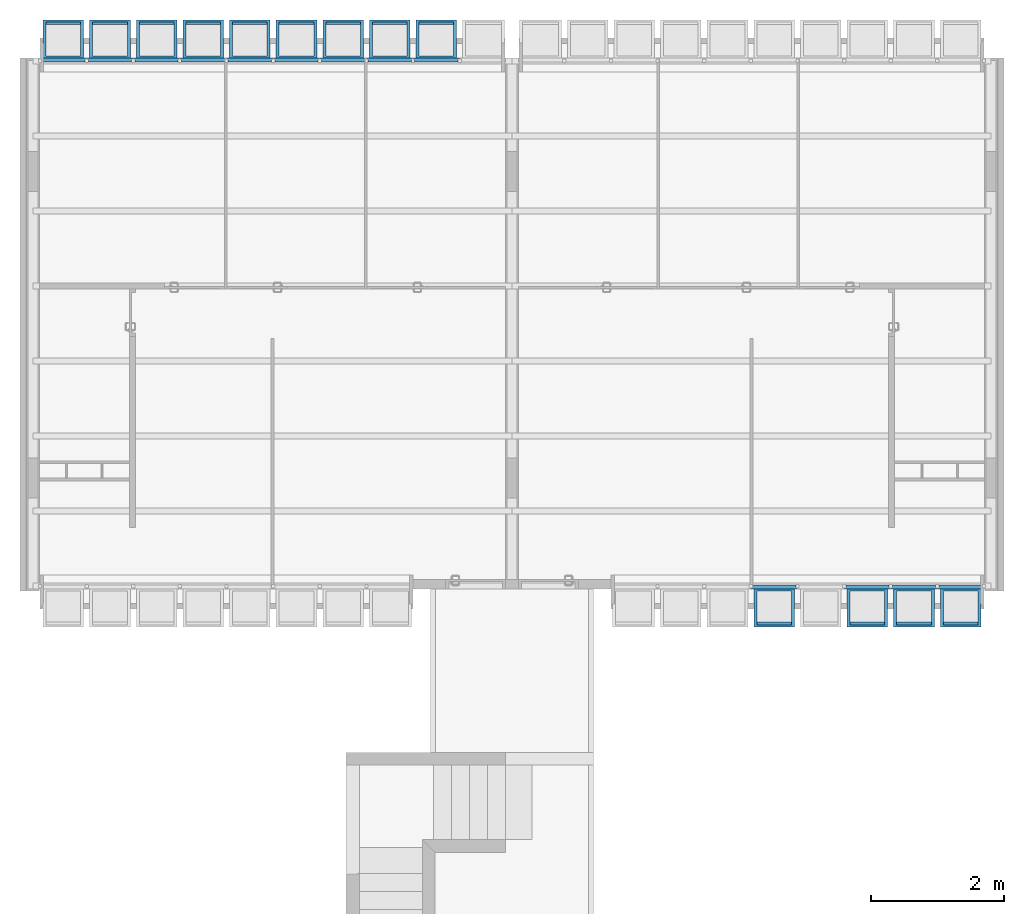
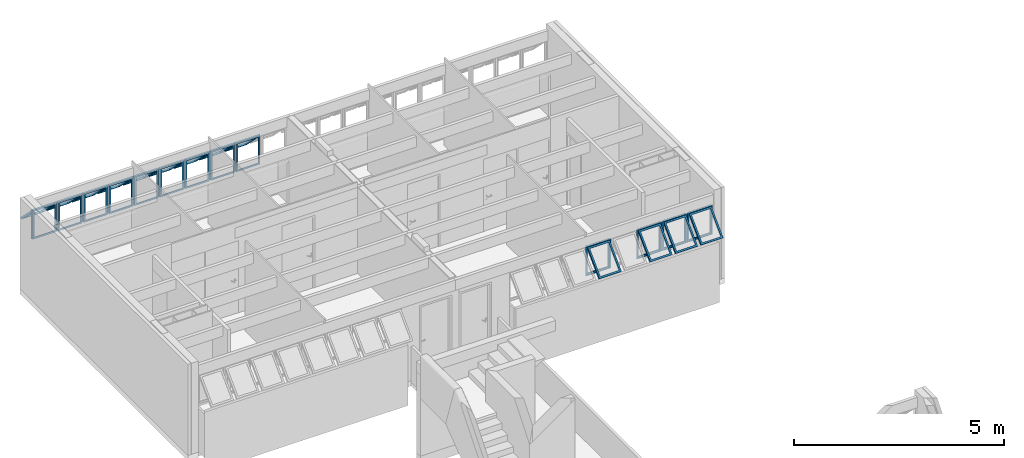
# One storey, part 32 of 37: 13 building element parts, 15 elements without a shape of their own.
"""IFC2X3 building model written with IfcOpenShell, lengths in millimetres."""

import ifcopenshell
import ifcopenshell.guid

model = None  # the IFC model being written
_history = None  # IfcOwnerHistory: only IFC2X3 demands one
_inside = {}  # id of a spatial element -> (the spatial element, [elements in it])
_under = {}  # id of a project, library or spatial element -> (it, [spatial elements below it])
_declared = {}  # id of a project -> (the project, [libraries it declares])
_typed = {}  # id of a type object -> (the type object, [elements of that type])
_made_of = {}  # id of a material, layer set ... -> (it, [elements and type objects made of it])


def new_model(schema):
    """Start an empty IFC model of exactly this schema.

    Asked for "IFC4X3", IfcOpenShell would pick the latest addendum, in which some entities
    have other attributes; the version numbers below select the first issue.
    IFC2X3 requires an IfcOwnerHistory on every rooted entity: one is made here for all.
    """
    global model, _history
    if schema == "IFC4X3":
        model = ifcopenshell.file(schema_version=(4, 3, 0, 0))
    else:
        model = ifcopenshell.file(schema=schema)
    _inside.clear()
    _under.clear()
    _declared.clear()
    _typed.clear()
    _made_of.clear()
    _history = None
    if model.schema == "IFC2X3":
        org = make("IfcOrganization", Name="unknown")
        user = make(
            "IfcPersonAndOrganization",
            ThePerson=make("IfcPerson", FamilyName="unknown"),
            TheOrganization=org,
        )
        app = make(
            "IfcApplication",
            ApplicationDeveloper=org,
            Version="unknown",
            ApplicationFullName="unknown",
            ApplicationIdentifier="unknown",
        )
        _history = make(
            "IfcOwnerHistory",
            OwningUser=user,
            OwningApplication=app,
            ChangeAction="ADDED",
            CreationDate=0,
        )
    return model


def make(cls, **values):
    """One entity of the class cls with the attributes given. An attribute that is None is left unset."""
    return model.create_entity(
        cls, **{name: value for name, value in values.items() if value is not None}
    )


def entity(cls, *values):
    """Any entity or typed value of the class cls, its attributes in the order of the schema. None: left unset."""
    e = model.create_entity(cls)
    for i, value in enumerate(values):
        if value is not None:
            e[i] = value
    return e


def rooted(cls, **values):
    """An entity with a GlobalId (a new one), such as an element, a storey or a relation."""
    return make(cls, GlobalId=ifcopenshell.guid.new(), OwnerHistory=_history, **values)


def si_unit(unit_type, name, prefix=None):
    """IfcSIUnit, for example si_unit("LENGTHUNIT", "METRE", prefix="MILLI")."""
    return make("IfcSIUnit", UnitType=unit_type, Prefix=prefix, Name=name)


def converted_unit(unit_type, name, factor, base, dimensions=None, offset=None):
    """IfcConversionBasedUnit, such as the inch: factor (a typed value) times the base unit."""
    return make(
        "IfcConversionBasedUnit"
        if offset is None
        else "IfcConversionBasedUnitWithOffset",
        ConversionOffset=offset,
        Dimensions=None
        if dimensions is None
        else entity("IfcDimensionalExponents", *dimensions),
        UnitType=unit_type,
        Name=name,
        ConversionFactor=make(
            "IfcMeasureWithUnit", ValueComponent=factor, UnitComponent=base
        ),
    )


def derived_unit(unit_type, elements):
    """IfcDerivedUnit: a product of units, each with its exponent."""
    return make(
        "IfcDerivedUnit",
        Elements=[
            make("IfcDerivedUnitElement", Unit=unit, Exponent=power)
            for unit, power in elements
        ],
        UnitType=unit_type,
    )


def money_unit(currency):
    """IfcMonetaryUnit."""
    return make("IfcMonetaryUnit", Currency=currency)


def assignment(units):
    """IfcUnitAssignment: the units of a project."""
    return None if units is None else make("IfcUnitAssignment", Units=units)


def point(xyz):
    """IfcCartesianPoint."""
    return None if xyz is None else make("IfcCartesianPoint", Coordinates=xyz)


def direction(xyz):
    """IfcDirection."""
    return None if xyz is None else make("IfcDirection", DirectionRatios=xyz)


def frame(location, z_axis=None, x_axis=None):
    """IfcAxis2Placement3D, a coordinate frame: its origin and axes. An axis left out is left unset."""
    return make(
        "IfcAxis2Placement3D",
        Location=point(location),
        Axis=direction(z_axis),
        RefDirection=direction(x_axis),
    )


def origin_with_axes():
    """The frame at (0, 0, 0) with the z axis (0, 0, 1) and the x axis (1, 0, 0) written out."""
    return frame((0.0, 0.0, 0.0), z_axis=(0.0, 0.0, 1.0), x_axis=(1.0, 0.0, 0.0))


def place(relative_to, where):
    """IfcLocalPlacement: puts the frame where relative to a parent placement (None: the world)."""
    return make(
        "IfcLocalPlacement", PlacementRelTo=relative_to, RelativePlacement=where
    )


def context(
    kind, dimensions, precision=None, world=None, true_north=None, identifier=None
):
    """IfcGeometricRepresentationContext, for example the 3D "Model" context."""
    return make(
        "IfcGeometricRepresentationContext",
        ContextIdentifier=identifier,
        ContextType=kind,
        CoordinateSpaceDimension=dimensions,
        Precision=precision,
        WorldCoordinateSystem=world,
        TrueNorth=true_north,
    )


def subcontext(parent, identifier, kind, view, scale=None):
    """IfcGeometricRepresentationSubContext, for example "Body" below "Model"."""
    return make(
        "IfcGeometricRepresentationSubContext",
        ContextIdentifier=identifier,
        ContextType=kind,
        ParentContext=parent,
        TargetScale=scale,
        TargetView=view,
    )


def project(units=None, contexts=None):
    """IfcProject with its units and contexts."""
    return rooted(
        "IfcProject",
        Name="project",
        RepresentationContexts=contexts,
        UnitsInContext=assignment(units),
    )


def spatial(cls, under=None, at=None, **own):
    """A site, building, storey or space (cls), placed at a placement, below another one or the project."""
    s = rooted(cls, ObjectPlacement=at, **own)
    if under is not None:
        _under.setdefault(under.id(), (under, []))[1].append(s)
    return s


def faces_of(points, faces, orient=None, outer=None):
    """IfcFace entities. A face is a list of loops; a loop is a list of indices into points, from 0.

    orient and outer hold one flag for each loop. By default every Orientation is true, the
    first loop of a face is its IfcFaceOuterBound and the others are IfcFaceBound.
    """
    made = []
    for i, loops in enumerate(faces):
        bounds = []
        for j, loop in enumerate(loops):
            is_outer = j == 0 if outer is None else outer[i][j]
            bounds.append(
                make(
                    "IfcFaceOuterBound" if is_outer else "IfcFaceBound",
                    Bound=make("IfcPolyLoop", Polygon=[points[k] for k in loop]),
                    Orientation=True if orient is None else orient[i][j],
                )
            )
        made.append(make("IfcFace", Bounds=bounds))
    return made


def faceted_brep(points, faces, orient=None, outer=None, voids=None):
    """IfcFacetedBrep: a solid bounded by flat faces; with voids (closed shells), ...WithVoids."""
    shared = [point(p) for p in points]
    hull = make("IfcClosedShell", CfsFaces=faces_of(shared, faces, orient, outer))
    if voids is None:
        return make("IfcFacetedBrep", Outer=hull)
    return make(
        "IfcFacetedBrepWithVoids",
        Outer=hull,
        Voids=[
            make(cls, CfsFaces=faces_of(shared, fs, o, b)) for cls, fs, o, b in voids
        ],
    )


def shape(context_of_items, identifier, shape_type, items):
    """IfcShapeRepresentation: the items that make up one representation, for example the "Body"."""
    return make(
        "IfcShapeRepresentation",
        ContextOfItems=context_of_items,
        RepresentationIdentifier=identifier,
        RepresentationType=shape_type,
        Items=items,
    )


def source(mapping_origin, context_of_items, identifier, shape_type, items):
    """IfcRepresentationMap: a shape defined once, which mapped items show again and again."""
    return make(
        "IfcRepresentationMap",
        MappingOrigin=mapping_origin,
        MappedRepresentation=shape(context_of_items, identifier, shape_type, items),
    )


def transform(
    local_origin,
    x_axis=None,
    y_axis=None,
    z_axis=None,
    scale=None,
    scale2=None,
    scale3=None,
    uniform=True,
):
    """IfcCartesianTransformationOperator3D, or its non-uniform kind. x_axis, y_axis, z_axis: its Axis1, 2, 3."""
    if uniform:
        return make(
            "IfcCartesianTransformationOperator3D",
            Axis1=direction(x_axis),
            Axis2=direction(y_axis),
            LocalOrigin=point(local_origin),
            Scale=scale,
            Axis3=direction(z_axis),
        )
    return make(
        "IfcCartesianTransformationOperator3DnonUniform",
        Axis1=direction(x_axis),
        Axis2=direction(y_axis),
        LocalOrigin=point(local_origin),
        Scale=scale,
        Axis3=direction(z_axis),
        Scale2=scale2,
        Scale3=scale3,
    )


def mapped(mapping_source, mapping_target):
    """IfcMappedItem: shows the shape of a source again, moved by a transform."""
    return make(
        "IfcMappedItem", MappingSource=mapping_source, MappingTarget=mapping_target
    )


def material(Name=None, Category=None):
    """IfcMaterial."""
    return make("IfcMaterial", Name=Name, Category=Category)


def made_of(thing, what):
    """Note that an element or type object is made of a material, layer set ...; save() writes the relation."""
    if what is not None:
        _made_of.setdefault(what.id(), (what, []))[1].append(thing)
    return thing


def type_object(cls, material=None, **own):
    """A type object (cls), such as IfcWallType, which elements share."""
    return made_of(rooted(cls, **own), material)


def element(
    cls,
    number,
    at=None,
    inside=None,
    cuts=None,
    type_object=None,
    material=None,
    context=None,
    identifier="Body",
    shape_type=None,
    held_by="IfcProductDefinitionShape",
    body=None,
    shapes=None,
    **own,
):
    """One element of the class cls, such as IfcWall. Its Tag is "e" and its number.

    at: its placement. inside: the storey or other place that contains it. cuts: it is an
    opening in that element (IfcRelVoidsElement). A single representation is given by context,
    identifier, shape_type and body (its items); several are given by shapes. held_by: the class
    of the entity that holds the representations. save() writes the other relations.
    """
    e = rooted(cls, Tag="e%d" % number, ObjectPlacement=at, **own)
    if body is not None:
        shapes = [shape(context, identifier, shape_type, body)]
    if shapes is not None:
        e.Representation = make(held_by, Representations=shapes)
    if inside is not None:
        _inside.setdefault(inside.id(), (inside, []))[1].append(e)
    if cuts is not None:
        rooted(
            "IfcRelVoidsElement", RelatingBuildingElement=cuts, RelatedOpeningElement=e
        )
    if type_object is not None:
        _typed.setdefault(type_object.id(), (type_object, []))[1].append(e)
    return made_of(e, material)


def aggregate(whole, parts):
    """IfcRelAggregates: a whole, such as a stair, and the parts it consists of."""
    return rooted("IfcRelAggregates", RelatingObject=whole, RelatedObjects=parts)


def save(model, path):
    """Write the relations noted so far, then the file.

    IfcRelAggregates (storeys below a building ...), IfcRelContainedInSpatialStructure (elements
    in a storey), IfcRelDefinesByType, IfcRelAssociatesMaterial and IfcRelDeclares: one each for
    every whole, place, type object, material and project.
    """
    for whole, parts in _under.values():
        aggregate(whole, parts)
    for where, things in _inside.values():
        rooted(
            "IfcRelContainedInSpatialStructure",
            RelatedElements=things,
            RelatingStructure=where,
        )
    for kind, things in _typed.values():
        rooted("IfcRelDefinesByType", RelatedObjects=things, RelatingType=kind)
    for what, things in _made_of.values():
        rooted("IfcRelAssociatesMaterial", RelatedObjects=things, RelatingMaterial=what)
    for by, libraries in _declared.values():
        rooted("IfcRelDeclares", RelatingContext=by, RelatedDefinitions=libraries)
    model.write(path)


model = new_model("IFC2X3")

# Units and contexts
model_context = context("Model", 3, precision=0.01, world=origin_with_axes(), true_north=direction((0.0, 1.0)))
body_context = subcontext(model_context, "Body", "Model", "MODEL_VIEW")
ifc_project = project(units=[si_unit("LENGTHUNIT", "METRE", prefix="MILLI"), si_unit("AREAUNIT", "SQUARE_METRE"), si_unit("VOLUMEUNIT", "CUBIC_METRE"), converted_unit("PLANEANGLEUNIT", "DEGREE", entity("IfcPlaneAngleMeasure", 0.0174532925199), si_unit("PLANEANGLEUNIT", "RADIAN"), dimensions=[0, 0, 0, 0, 0, 0, 0]), money_unit("USD"), converted_unit("TIMEUNIT", "Year", entity("IfcTimeMeasure", 31556926.0), si_unit("TIMEUNIT", "SECOND"), dimensions=[0, 0, 1, 0, 0, 0, 0]), si_unit("MASSUNIT", "GRAM", prefix="KILO"), si_unit("THERMODYNAMICTEMPERATUREUNIT", "DEGREE_CELSIUS"), si_unit("LUMINOUSINTENSITYUNIT", "LUMEN"), si_unit("ENERGYUNIT", "JOULE", prefix="MEGA"), derived_unit("THERMALCONDUCTANCEUNIT", [(si_unit("POWERUNIT", "WATT"), 1), (si_unit("LENGTHUNIT", "METRE"), -1), (si_unit("THERMODYNAMICTEMPERATUREUNIT", "KELVIN"), -1)]), derived_unit("SPECIFICHEATCAPACITYUNIT", [(si_unit("ENERGYUNIT", "JOULE"), 1), (si_unit("MASSUNIT", "GRAM", prefix="KILO"), -1), (si_unit("THERMODYNAMICTEMPERATUREUNIT", "KELVIN"), -1)]), derived_unit("MASSDENSITYUNIT", [(si_unit("MASSUNIT", "GRAM", prefix="KILO"), 1), (si_unit("VOLUMEUNIT", "CUBIC_METRE"), -1)])], contexts=[model_context])

# Site, building, storey
site_placement = place(None, origin_with_axes())
site = spatial("IfcSite", under=ifc_project, at=site_placement, Name="Local", CompositionType="ELEMENT")
building_placement = place(site_placement, origin_with_axes())
building = spatial("IfcBuilding", under=site, at=building_placement, Name="Construção", CompositionType="ELEMENT")
storey_placement = place(building_placement, origin_with_axes())
storey = spatial("IfcBuildingStorey", under=building, at=storey_placement, Name="Primeiro Pavimento", CompositionType="ELEMENT", Elevation=0.0)

# Window, plates, building element parts
window_style = type_object("IfcWindowStyle", Name="Tipo de Parede Cortina", ConstructionType="NOTDEFINED", OperationType="NOTDEFINED", ParameterTakesPrecedence=False, Sizeable=False)
window_1_placement = place(storey_placement, frame((6250.0, 25844.9790225, 1355.02054151), z_axis=(0.0, 0.0, 1.0), x_axis=(1.0, 0.0, 0.0)))
window_1 = element("IfcWindow", 1, at=window_1_placement, inside=storey, type_object=window_style, Name="APTO3-JANELA-001")
plate_type = type_object("IfcPlateType", Name="Painel Principal 690 x 845 x 20", PredefinedType="CURTAIN_PANEL")
plate_1_placement = place(window_1_placement, frame((0.0, 0.0, 422.499945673), z_axis=(0.0, 0.0, 1.0), x_axis=(-1.0, 0.0, 0.0)))
plate_1 = element("IfcPlate", 2, at=plate_1_placement, type_object=plate_type, Name="APTO3-Painel-Prin-030")
ifc_material = material(Name="Alumínio")
shared_shape_1 = source(origin_with_axes(), body_context, "Body", "Brep", [
    faceted_brep([(-25.0000036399, 0.0, -40.0), (-25.0000036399, 0.0, -35.0), (-674.999997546, 0.0, -35.0), (-674.999997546, 0.0, -40.0), (-70.0000036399, 45.0, -40.0), (-70.0000036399, 45.0, -35.0), (-629.999997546, 45.0, -35.0), (-629.999997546, 45.0, -40.0)], [[[0, 1, 2, 3]], [[4, 5, 1, 0]], [[1, 5, 6, 2]], [[3, 2, 6, 7]], [[0, 3, 7, 4]], [[7, 6, 5, 4]]]),
    faceted_brep([(-674.999997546, 0.0, -40.0), (-674.999997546, 0.0, -35.0), (-674.999997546, 844.999891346, -35.0), (-674.999997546, 844.999891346, -40.0), (-629.999997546, 45.0, -40.0), (-629.999997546, 45.0, -35.0), (-629.999997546, 799.999891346, -35.0), (-629.999997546, 799.999891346, -40.0)], [[[0, 1, 2, 3]], [[4, 5, 1, 0]], [[1, 5, 6, 2]], [[3, 2, 6, 7]], [[0, 3, 7, 4]], [[7, 6, 5, 4]]]),
    faceted_brep([(-25.0000036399, 844.999891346, -40.0), (-25.0000036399, 844.999891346, -35.0), (-70.0000036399, 799.999891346, -35.0), (-70.0000036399, 799.999891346, -40.0), (-674.999997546, 844.999891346, -40.0), (-674.999997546, 844.999891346, -35.0), (-629.999997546, 799.999891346, -35.0), (-629.999997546, 799.999891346, -40.0)], [[[0, 1, 2, 3]], [[4, 5, 1, 0]], [[1, 5, 6, 2]], [[3, 2, 6, 7]], [[0, 3, 7, 4]], [[7, 6, 5, 4]]]),
    faceted_brep([(-25.0000036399, 0.0, -40.0), (-25.0000036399, 0.0, -35.0), (-70.0000036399, 45.0, -35.0), (-70.0000036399, 45.0, -40.0), (-25.0000036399, 844.999891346, -40.0), (-25.0000036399, 844.999891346, -35.0), (-70.0000036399, 799.999891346, -35.0), (-70.0000036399, 799.999891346, -40.0)], [[[0, 1, 2, 3]], [[4, 5, 1, 0]], [[1, 5, 6, 2]], [[3, 2, 6, 7]], [[0, 3, 7, 4]], [[7, 6, 5, 4]]]),
    faceted_brep([(-25.0000036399, 0.0, -35.0), (-25.0000036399, 0.0, 15.0), (-674.999997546, 0.0, 15.0), (-674.999997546, 0.0, -35.0), (-45.0000036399, 20.0, -35.0), (-45.0000036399, 20.0, 15.0), (-654.999997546, 20.0, 15.0), (-654.999997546, 20.0, -35.0)], [[[0, 1, 2, 3]], [[4, 5, 1, 0]], [[1, 5, 6, 2]], [[3, 2, 6, 7]], [[0, 3, 7, 4]], [[7, 6, 5, 4]]]),
    faceted_brep([(-674.999997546, 0.0, -35.0), (-674.999997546, 0.0, 15.0), (-674.999997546, 844.999891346, 15.0), (-674.999997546, 844.999891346, -35.0), (-654.999997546, 20.0, -35.0), (-654.999997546, 20.0, 15.0), (-654.999997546, 824.999891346, 15.0), (-654.999997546, 824.999891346, -35.0)], [[[0, 1, 2, 3]], [[4, 5, 1, 0]], [[1, 5, 6, 2]], [[3, 2, 6, 7]], [[0, 3, 7, 4]], [[7, 6, 5, 4]]]),
    faceted_brep([(-25.0000036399, 844.999891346, -35.0), (-25.0000036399, 844.999891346, 15.0), (-45.0000036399, 824.999891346, 15.0), (-45.0000036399, 824.999891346, -35.0), (-674.999997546, 844.999891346, -35.0), (-674.999997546, 844.999891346, 15.0), (-654.999997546, 824.999891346, 15.0), (-654.999997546, 824.999891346, -35.0)], [[[0, 1, 2, 3]], [[4, 5, 1, 0]], [[1, 5, 6, 2]], [[3, 2, 6, 7]], [[0, 3, 7, 4]], [[7, 6, 5, 4]]]),
    faceted_brep([(-25.0000036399, 0.0, -35.0), (-25.0000036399, 0.0, 15.0), (-45.0000036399, 20.0, 15.0), (-45.0000036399, 20.0, -35.0), (-25.0000036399, 844.999891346, -35.0), (-25.0000036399, 844.999891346, 15.0), (-45.0000036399, 824.999891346, 15.0), (-45.0000036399, 824.999891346, -35.0)], [[[0, 1, 2, 3]], [[4, 5, 1, 0]], [[1, 5, 6, 2]], [[3, 2, 6, 7]], [[0, 3, 7, 4]], [[7, 6, 5, 4]]]),
    faceted_brep([(-694.999995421, 0.0, -10.0), (-694.999995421, 0.0, 10.0), (-694.999995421, 844.999891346, 10.0), (-694.999995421, 844.999891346, -10.0), (-674.999997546, 0.0, -10.0), (-674.999997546, 0.0, 10.0), (-674.999997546, 844.999891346, 10.0), (-674.999997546, 844.999891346, -10.0)], [[[0, 1, 2, 3]], [[4, 5, 1, 0]], [[1, 5, 6, 2]], [[3, 2, 6, 7]], [[0, 3, 7, 4]], [[7, 6, 5, 4]]]),
    faceted_brep([(-5.00000576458, 844.999891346, -10.0), (-5.00000576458, 844.999891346, 10.0), (-5.00000576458, 0.0, 10.0), (-5.00000576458, 0.0, -10.0), (-25.0000036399, 844.999891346, -10.0), (-25.0000036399, 844.999891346, 10.0), (-25.0000036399, 0.0, 10.0), (-25.0000036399, 0.0, -10.0)], [[[0, 1, 2, 3]], [[4, 5, 1, 0]], [[1, 5, 6, 2]], [[3, 2, 6, 7]], [[0, 3, 7, 4]], [[7, 6, 5, 4]]]),
    faceted_brep([(-90.0000036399, 252.243475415, 517.045737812), (-90.0000036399, 291.13434838, 555.936610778), (-90.0000036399, 796.715620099, 50.3553390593), (-90.0000036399, 757.824747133, 11.4644660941), (-45.0000036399, 220.423670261, 548.865542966), (-45.0000036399, 259.314543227, 587.756415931), (-45.0000036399, 828.535425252, 18.5355339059), (-45.0000036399, 789.644552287, -20.3553390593)], [[[0, 1, 2, 3]], [[4, 5, 1, 0]], [[1, 5, 6, 2]], [[3, 2, 6, 7]], [[0, 3, 7, 4]], [[7, 6, 5, 4]]]),
    faceted_brep([(-654.999997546, 220.423670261, 548.865542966), (-654.999997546, 259.314543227, 587.756415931), (-654.999997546, 828.535425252, 18.5355339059), (-654.999997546, 789.644552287, -20.3553390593), (-609.999997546, 252.243475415, 517.045737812), (-609.999997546, 291.13434838, 555.936610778), (-609.999997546, 796.715620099, 50.3553390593), (-609.999997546, 757.824747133, 11.4644660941)], [[[0, 1, 2, 3]], [[4, 5, 1, 0]], [[1, 5, 6, 2]], [[3, 2, 6, 7]], [[0, 3, 7, 4]], [[7, 6, 5, 4]]]),
    faceted_brep([(-654.999997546, 220.423670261, 548.865542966), (-654.999997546, 259.314543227, 587.756415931), (-609.999997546, 291.13434838, 555.936610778), (-609.999997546, 252.243475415, 517.045737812), (-45.0000036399, 220.423670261, 548.865542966), (-45.0000036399, 259.314543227, 587.756415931), (-90.0000036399, 291.13434838, 555.936610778), (-90.0000036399, 252.243475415, 517.045737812)], [[[0, 1, 2, 3]], [[4, 5, 1, 0]], [[1, 5, 6, 2]], [[3, 2, 6, 7]], [[0, 3, 7, 4]], [[7, 6, 5, 4]]]),
    faceted_brep([(-45.0000036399, 789.644552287, -20.3553390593), (-45.0000036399, 828.535425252, 18.5355339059), (-90.0000036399, 796.715620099, 50.3553390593), (-90.0000036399, 757.824747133, 11.4644660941), (-654.999997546, 789.644552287, -20.3553390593), (-654.999997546, 828.535425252, 18.5355339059), (-609.999997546, 796.715620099, 50.3553390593), (-609.999997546, 757.824747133, 11.4644660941)], [[[0, 1, 2, 3]], [[4, 5, 1, 0]], [[1, 5, 6, 2]], [[3, 2, 6, 7]], [[0, 3, 7, 4]], [[7, 6, 5, 4]]]),
])
building_element_part_1_placement = place(plate_1_placement, origin_with_axes())
building_element_part_1 = element("IfcBuildingElementPart", 3, at=building_element_part_1_placement, material=ifc_material, Name="Alumínio", context=body_context, shape_type="MappedRepresentation", body=[
    mapped(shared_shape_1, transform((350.0, 0.0, -422.499945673), x_axis=(1.0, 0.0, 0.0), y_axis=(0.0, 0.0, 1.0), z_axis=(0.0, -1.0, 0.0))),
])
aggregate(plate_1, [building_element_part_1])
plate_2_placement = place(window_1_placement, frame((-700.0, 0.0, 422.499945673), z_axis=(0.0, 0.0, 1.0), x_axis=(-1.0, 0.0, 0.0)))
plate_2 = element("IfcPlate", 4, at=plate_2_placement, type_object=plate_type, Name="APTO3-Painel-Prin-020")
building_element_part_2_placement = place(plate_2_placement, origin_with_axes())
building_element_part_2 = element("IfcBuildingElementPart", 5, at=building_element_part_2_placement, material=ifc_material, Name="Alumínio", context=body_context, shape_type="MappedRepresentation", body=[
    mapped(shared_shape_1, transform((350.0, 0.0, -422.499945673), x_axis=(1.0, 0.0, 0.0), y_axis=(0.0, 0.0, 1.0), z_axis=(0.0, -1.0, 0.0))),
])
aggregate(plate_2, [building_element_part_2])
plate_3_placement = place(window_1_placement, frame((-1400.0, 0.0, 422.499945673), z_axis=(0.0, 0.0, 1.0), x_axis=(-1.0, 0.0, 0.0)))
plate_3 = element("IfcPlate", 6, at=plate_3_placement, type_object=plate_type, Name="APTO3-Painel-Prin-029")
building_element_part_3_placement = place(plate_3_placement, origin_with_axes())
building_element_part_3 = element("IfcBuildingElementPart", 7, at=building_element_part_3_placement, material=ifc_material, Name="Alumínio", context=body_context, shape_type="MappedRepresentation", body=[
    mapped(shared_shape_1, transform((350.0, 0.0, -422.499945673), x_axis=(1.0, 0.0, 0.0), y_axis=(0.0, 0.0, 1.0), z_axis=(0.0, -1.0, 0.0))),
])
aggregate(plate_3, [building_element_part_3])
plate_4_placement = place(window_1_placement, frame((-3500.0, 0.0, 422.499945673), z_axis=(0.0, 0.0, 1.0), x_axis=(-1.0, 0.0, 0.0)))
plate_4 = element("IfcPlate", 8, at=plate_4_placement, type_object=plate_type, Name="APTO3-Painel-Prin-013")
building_element_part_4_placement = place(plate_4_placement, origin_with_axes())
building_element_part_4 = element("IfcBuildingElementPart", 9, at=building_element_part_4_placement, material=ifc_material, Name="Alumínio", context=body_context, shape_type="MappedRepresentation", body=[
    mapped(shared_shape_1, transform((350.0, 0.0, -422.499945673), x_axis=(1.0, 0.0, 0.0), y_axis=(0.0, 0.0, 1.0), z_axis=(0.0, -1.0, 0.0))),
])
aggregate(plate_4, [building_element_part_4])

window_2_placement = place(storey_placement, frame((12020.0, 17910.0, 1355.00007107), z_axis=(0.0, 0.0, 1.0), x_axis=(1.0, 0.0, 0.0)))
window_2 = element("IfcWindow", 10, at=window_2_placement, inside=storey, type_object=window_style, Name="APTO4-JANELA-000")
plate_5_placement = place(window_2_placement, frame((2100.0, 0.0, 422.499998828), z_axis=(0.0, 0.0, 1.0), x_axis=(1.0, 0.0, 0.0)))
plate_5 = element("IfcPlate", 11, at=plate_5_placement, type_object=plate_type, Name="APTO4-Painel-Prin-013")
shared_shape_2 = source(origin_with_axes(), body_context, "Body", "Brep", [
    faceted_brep([(-25.0000036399, 0.0, -40.0), (-25.0000036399, 0.0, -35.0), (-674.999997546, 0.0, -35.0), (-674.999997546, 0.0, -40.0), (-70.0000036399, 45.0, -40.0), (-70.0000036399, 45.0, -35.0), (-629.999997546, 45.0, -35.0), (-629.999997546, 45.0, -40.0)], [[[0, 1, 2, 3]], [[4, 5, 1, 0]], [[1, 5, 6, 2]], [[3, 2, 6, 7]], [[0, 3, 7, 4]], [[7, 6, 5, 4]]]),
    faceted_brep([(-674.999997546, 0.0, -40.0), (-674.999997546, 0.0, -35.0), (-674.999997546, 844.999891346, -35.0), (-674.999997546, 844.999891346, -40.0), (-629.999997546, 45.0, -40.0), (-629.999997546, 45.0, -35.0), (-629.999997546, 799.999891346, -35.0), (-629.999997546, 799.999891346, -40.0)], [[[0, 1, 2, 3]], [[4, 5, 1, 0]], [[1, 5, 6, 2]], [[3, 2, 6, 7]], [[0, 3, 7, 4]], [[7, 6, 5, 4]]]),
    faceted_brep([(-25.0000036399, 844.999891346, -40.0), (-25.0000036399, 844.999891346, -35.0), (-70.0000036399, 799.999891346, -35.0), (-70.0000036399, 799.999891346, -40.0), (-674.999997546, 844.999891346, -40.0), (-674.999997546, 844.999891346, -35.0), (-629.999997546, 799.999891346, -35.0), (-629.999997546, 799.999891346, -40.0)], [[[0, 1, 2, 3]], [[4, 5, 1, 0]], [[1, 5, 6, 2]], [[3, 2, 6, 7]], [[0, 3, 7, 4]], [[7, 6, 5, 4]]]),
    faceted_brep([(-25.0000036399, 0.0, -40.0), (-25.0000036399, 0.0, -35.0), (-70.0000036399, 45.0, -35.0), (-70.0000036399, 45.0, -40.0), (-25.0000036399, 844.999891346, -40.0), (-25.0000036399, 844.999891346, -35.0), (-70.0000036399, 799.999891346, -35.0), (-70.0000036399, 799.999891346, -40.0)], [[[0, 1, 2, 3]], [[4, 5, 1, 0]], [[1, 5, 6, 2]], [[3, 2, 6, 7]], [[0, 3, 7, 4]], [[7, 6, 5, 4]]]),
    faceted_brep([(-25.0000036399, 0.0, -35.0), (-25.0000036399, 0.0, 15.0), (-674.999997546, 0.0, 15.0), (-674.999997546, 0.0, -35.0), (-45.0000036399, 20.0, -35.0), (-45.0000036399, 20.0, 15.0), (-654.999997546, 20.0, 15.0), (-654.999997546, 20.0, -35.0)], [[[0, 1, 2, 3]], [[4, 5, 1, 0]], [[1, 5, 6, 2]], [[3, 2, 6, 7]], [[0, 3, 7, 4]], [[7, 6, 5, 4]]]),
    faceted_brep([(-674.999997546, 0.0, -35.0), (-674.999997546, 0.0, 15.0), (-674.999997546, 844.999891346, 15.0), (-674.999997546, 844.999891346, -35.0), (-654.999997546, 20.0, -35.0), (-654.999997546, 20.0, 15.0), (-654.999997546, 824.999891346, 15.0), (-654.999997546, 824.999891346, -35.0)], [[[0, 1, 2, 3]], [[4, 5, 1, 0]], [[1, 5, 6, 2]], [[3, 2, 6, 7]], [[0, 3, 7, 4]], [[7, 6, 5, 4]]]),
    faceted_brep([(-25.0000036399, 844.999891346, -35.0), (-25.0000036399, 844.999891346, 15.0), (-45.0000036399, 824.999891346, 15.0), (-45.0000036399, 824.999891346, -35.0), (-674.999997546, 844.999891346, -35.0), (-674.999997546, 844.999891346, 15.0), (-654.999997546, 824.999891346, 15.0), (-654.999997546, 824.999891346, -35.0)], [[[0, 1, 2, 3]], [[4, 5, 1, 0]], [[1, 5, 6, 2]], [[3, 2, 6, 7]], [[0, 3, 7, 4]], [[7, 6, 5, 4]]]),
    faceted_brep([(-25.0000036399, 0.0, -35.0), (-25.0000036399, 0.0, 15.0), (-45.0000036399, 20.0, 15.0), (-45.0000036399, 20.0, -35.0), (-25.0000036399, 844.999891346, -35.0), (-25.0000036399, 844.999891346, 15.0), (-45.0000036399, 824.999891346, 15.0), (-45.0000036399, 824.999891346, -35.0)], [[[0, 1, 2, 3]], [[4, 5, 1, 0]], [[1, 5, 6, 2]], [[3, 2, 6, 7]], [[0, 3, 7, 4]], [[7, 6, 5, 4]]]),
    faceted_brep([(-694.999995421, 0.0, -10.0), (-694.999995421, 0.0, 10.0), (-694.999995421, 844.999891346, 10.0), (-694.999995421, 844.999891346, -10.0), (-674.999997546, 0.0, -10.0), (-674.999997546, 0.0, 10.0), (-674.999997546, 844.999891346, 10.0), (-674.999997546, 844.999891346, -10.0)], [[[0, 1, 2, 3]], [[4, 5, 1, 0]], [[1, 5, 6, 2]], [[3, 2, 6, 7]], [[0, 3, 7, 4]], [[7, 6, 5, 4]]]),
    faceted_brep([(-5.00000576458, 844.999891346, -10.0), (-5.00000576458, 844.999891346, 10.0), (-5.00000576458, 0.0, 10.0), (-5.00000576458, 0.0, -10.0), (-25.0000036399, 844.999891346, -10.0), (-25.0000036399, 844.999891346, 10.0), (-25.0000036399, 0.0, 10.0), (-25.0000036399, 0.0, -10.0)], [[[0, 1, 2, 3]], [[4, 5, 1, 0]], [[1, 5, 6, 2]], [[3, 2, 6, 7]], [[0, 3, 7, 4]], [[7, 6, 5, 4]]]),
    faceted_brep([(-90.0000036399, 252.243475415, 517.045737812), (-90.0000036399, 291.13434838, 555.936610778), (-90.0000036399, 796.715620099, 50.3553390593), (-90.0000036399, 757.824747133, 11.4644660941), (-45.0000036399, 220.423670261, 548.865542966), (-45.0000036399, 259.314543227, 587.756415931), (-45.0000036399, 828.535425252, 18.5355339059), (-45.0000036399, 789.644552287, -20.3553390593)], [[[0, 1, 2, 3]], [[4, 5, 1, 0]], [[1, 5, 6, 2]], [[3, 2, 6, 7]], [[0, 3, 7, 4]], [[7, 6, 5, 4]]]),
    faceted_brep([(-654.999997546, 220.423670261, 548.865542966), (-654.999997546, 259.314543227, 587.756415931), (-654.999997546, 828.535425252, 18.5355339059), (-654.999997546, 789.644552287, -20.3553390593), (-609.999997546, 252.243475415, 517.045737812), (-609.999997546, 291.13434838, 555.936610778), (-609.999997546, 796.715620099, 50.3553390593), (-609.999997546, 757.824747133, 11.4644660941)], [[[0, 1, 2, 3]], [[4, 5, 1, 0]], [[1, 5, 6, 2]], [[3, 2, 6, 7]], [[0, 3, 7, 4]], [[7, 6, 5, 4]]]),
    faceted_brep([(-654.999997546, 220.423670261, 548.865542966), (-654.999997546, 259.314543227, 587.756415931), (-609.999997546, 291.13434838, 555.936610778), (-609.999997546, 252.243475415, 517.045737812), (-45.0000036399, 220.423670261, 548.865542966), (-45.0000036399, 259.314543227, 587.756415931), (-90.0000036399, 291.13434838, 555.936610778), (-90.0000036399, 252.243475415, 517.045737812)], [[[0, 1, 2, 3]], [[4, 5, 1, 0]], [[1, 5, 6, 2]], [[3, 2, 6, 7]], [[0, 3, 7, 4]], [[7, 6, 5, 4]]]),
    faceted_brep([(-45.0000036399, 789.644552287, -20.3553390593), (-45.0000036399, 828.535425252, 18.5355339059), (-90.0000036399, 796.715620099, 50.3553390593), (-90.0000036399, 757.824747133, 11.4644660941), (-654.999997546, 789.644552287, -20.3553390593), (-654.999997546, 828.535425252, 18.5355339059), (-609.999997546, 796.715620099, 50.3553390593), (-609.999997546, 757.824747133, 11.4644660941)], [[[0, 1, 2, 3]], [[4, 5, 1, 0]], [[1, 5, 6, 2]], [[3, 2, 6, 7]], [[0, 3, 7, 4]], [[7, 6, 5, 4]]]),
])
building_element_part_5_placement = place(plate_5_placement, origin_with_axes())
building_element_part_5 = element("IfcBuildingElementPart", 12, at=building_element_part_5_placement, material=ifc_material, Name="Alumínio", context=body_context, shape_type="MappedRepresentation", body=[
    mapped(shared_shape_2, transform((350.0, 0.0, -422.499998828), x_axis=(1.0, 0.0, 0.0), y_axis=(0.0, 0.0, 1.0), z_axis=(0.0, -1.0, 0.0))),
])
aggregate(plate_5, [building_element_part_5])
plate_6_placement = place(window_2_placement, frame((1400.0, 0.0, 422.499964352), z_axis=(0.0, 0.0, 1.0), x_axis=(1.0, 0.0, 0.0)))
plate_6 = element("IfcPlate", 13, at=plate_6_placement, type_object=plate_type, Name="APTO4-Painel-Prin-013")
building_element_part_6_placement = place(plate_6_placement, origin_with_axes())
building_element_part_6 = element("IfcBuildingElementPart", 14, at=building_element_part_6_placement, material=ifc_material, Name="Alumínio", context=body_context, shape_type="MappedRepresentation", body=[
    mapped(shared_shape_2, transform((350.0, 0.0, -422.499964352), x_axis=(1.0, 0.0, 0.0), y_axis=(0.0, 0.0, 1.0), z_axis=(0.0, -1.0, 0.0))),
])
aggregate(plate_6, [building_element_part_6])

# Plate, building element part
plate_7_placement = place(window_1_placement, frame((-5600.0, 0.0, 422.499945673), z_axis=(0.0, 0.0, 1.0), x_axis=(-1.0, 0.0, 0.0)))
plate_7 = element("IfcPlate", 15, at=plate_7_placement, type_object=plate_type, Name="APTO3-Painel-Prin-013")
building_element_part_7_placement = place(plate_7_placement, origin_with_axes())
building_element_part_7 = element("IfcBuildingElementPart", 16, at=building_element_part_7_placement, material=ifc_material, Name="Alumínio", context=body_context, shape_type="MappedRepresentation", body=[
    mapped(shared_shape_2, transform((350.0, 0.0, -422.499945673), x_axis=(1.0, 0.0, 0.0), y_axis=(0.0, 0.0, 1.0), z_axis=(0.0, -1.0, 0.0))),
])
aggregate(plate_7, [building_element_part_7])

plate_8_placement = place(window_1_placement, frame((-4900.0, 0.0, 422.499945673), z_axis=(0.0, 0.0, 1.0), x_axis=(-1.0, 0.0, 0.0)))
plate_8 = element("IfcPlate", 17, at=plate_8_placement, type_object=plate_type, Name="APTO3-Painel-Prin-013")
building_element_part_8_placement = place(plate_8_placement, origin_with_axes())
building_element_part_8 = element("IfcBuildingElementPart", 18, at=building_element_part_8_placement, material=ifc_material, Name="Alumínio", context=body_context, shape_type="MappedRepresentation", body=[
    mapped(shared_shape_2, transform((350.0, 0.0, -422.499945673), x_axis=(1.0, 0.0, 0.0), y_axis=(0.0, 0.0, 1.0), z_axis=(0.0, -1.0, 0.0))),
])
aggregate(plate_8, [building_element_part_8])

plate_9_placement = place(window_1_placement, frame((-2100.0, 0.0, 422.499945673), z_axis=(0.0, 0.0, 1.0), x_axis=(-1.0, 0.0, 0.0)))
plate_9 = element("IfcPlate", 19, at=plate_9_placement, type_object=plate_type, Name="APTO3-Painel-Prin-025")
building_element_part_9_placement = place(plate_9_placement, origin_with_axes())
building_element_part_9 = element("IfcBuildingElementPart", 20, at=building_element_part_9_placement, material=ifc_material, Name="Alumínio", context=body_context, shape_type="MappedRepresentation", body=[
    mapped(shared_shape_2, transform((350.0, 0.0, -422.499945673), x_axis=(1.0, 0.0, 0.0), y_axis=(0.0, 0.0, 1.0), z_axis=(0.0, -1.0, 0.0))),
])
aggregate(plate_9, [building_element_part_9])

plate_10_placement = place(window_2_placement, frame((-700.0, 0.0, 422.499964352), z_axis=(0.0, 0.0, 1.0), x_axis=(1.0, 0.0, 0.0)))
plate_10 = element("IfcPlate", 21, at=plate_10_placement, type_object=plate_type, Name="APTO4-Painel-Prin-013")
shared_shape_3 = source(origin_with_axes(), body_context, "Body", "Brep", [
    faceted_brep([(-25.0000036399, 0.0, -40.0), (-25.0000036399, 0.0, -35.0), (-674.999997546, 0.0, -35.0), (-674.999997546, 0.0, -40.0), (-70.0000036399, 45.0, -40.0), (-70.0000036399, 45.0, -35.0), (-629.999997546, 45.0, -35.0), (-629.999997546, 45.0, -40.0)], [[[0, 1, 2, 3]], [[4, 5, 1, 0]], [[1, 5, 6, 2]], [[3, 2, 6, 7]], [[0, 3, 7, 4]], [[7, 6, 5, 4]]]),
    faceted_brep([(-674.999997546, 0.0, -40.0), (-674.999997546, 0.0, -35.0), (-674.999997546, 844.999891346, -35.0), (-674.999997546, 844.999891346, -40.0), (-629.999997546, 45.0, -40.0), (-629.999997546, 45.0, -35.0), (-629.999997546, 799.999891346, -35.0), (-629.999997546, 799.999891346, -40.0)], [[[0, 1, 2, 3]], [[4, 5, 1, 0]], [[1, 5, 6, 2]], [[3, 2, 6, 7]], [[0, 3, 7, 4]], [[7, 6, 5, 4]]]),
    faceted_brep([(-25.0000036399, 844.999891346, -40.0), (-25.0000036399, 844.999891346, -35.0), (-70.0000036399, 799.999891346, -35.0), (-70.0000036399, 799.999891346, -40.0), (-674.999997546, 844.999891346, -40.0), (-674.999997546, 844.999891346, -35.0), (-629.999997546, 799.999891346, -35.0), (-629.999997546, 799.999891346, -40.0)], [[[0, 1, 2, 3]], [[4, 5, 1, 0]], [[1, 5, 6, 2]], [[3, 2, 6, 7]], [[0, 3, 7, 4]], [[7, 6, 5, 4]]]),
    faceted_brep([(-25.0000036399, 0.0, -40.0), (-25.0000036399, 0.0, -35.0), (-70.0000036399, 45.0, -35.0), (-70.0000036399, 45.0, -40.0), (-25.0000036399, 844.999891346, -40.0), (-25.0000036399, 844.999891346, -35.0), (-70.0000036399, 799.999891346, -35.0), (-70.0000036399, 799.999891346, -40.0)], [[[0, 1, 2, 3]], [[4, 5, 1, 0]], [[1, 5, 6, 2]], [[3, 2, 6, 7]], [[0, 3, 7, 4]], [[7, 6, 5, 4]]]),
    faceted_brep([(-25.0000036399, 0.0, -35.0), (-25.0000036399, 0.0, 15.0), (-674.999997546, 0.0, 15.0), (-674.999997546, 0.0, -35.0), (-45.0000036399, 20.0, -35.0), (-45.0000036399, 20.0, 15.0), (-654.999997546, 20.0, 15.0), (-654.999997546, 20.0, -35.0)], [[[0, 1, 2, 3]], [[4, 5, 1, 0]], [[1, 5, 6, 2]], [[3, 2, 6, 7]], [[0, 3, 7, 4]], [[7, 6, 5, 4]]]),
    faceted_brep([(-674.999997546, 0.0, -35.0), (-674.999997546, 0.0, 15.0), (-674.999997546, 844.999891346, 15.0), (-674.999997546, 844.999891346, -35.0), (-654.999997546, 20.0, -35.0), (-654.999997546, 20.0, 15.0), (-654.999997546, 824.999891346, 15.0), (-654.999997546, 824.999891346, -35.0)], [[[0, 1, 2, 3]], [[4, 5, 1, 0]], [[1, 5, 6, 2]], [[3, 2, 6, 7]], [[0, 3, 7, 4]], [[7, 6, 5, 4]]]),
    faceted_brep([(-25.0000036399, 844.999891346, -35.0), (-25.0000036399, 844.999891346, 15.0), (-45.0000036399, 824.999891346, 15.0), (-45.0000036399, 824.999891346, -35.0), (-674.999997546, 844.999891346, -35.0), (-674.999997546, 844.999891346, 15.0), (-654.999997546, 824.999891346, 15.0), (-654.999997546, 824.999891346, -35.0)], [[[0, 1, 2, 3]], [[4, 5, 1, 0]], [[1, 5, 6, 2]], [[3, 2, 6, 7]], [[0, 3, 7, 4]], [[7, 6, 5, 4]]]),
    faceted_brep([(-25.0000036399, 0.0, -35.0), (-25.0000036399, 0.0, 15.0), (-45.0000036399, 20.0, 15.0), (-45.0000036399, 20.0, -35.0), (-25.0000036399, 844.999891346, -35.0), (-25.0000036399, 844.999891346, 15.0), (-45.0000036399, 824.999891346, 15.0), (-45.0000036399, 824.999891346, -35.0)], [[[0, 1, 2, 3]], [[4, 5, 1, 0]], [[1, 5, 6, 2]], [[3, 2, 6, 7]], [[0, 3, 7, 4]], [[7, 6, 5, 4]]]),
    faceted_brep([(-694.999995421, 0.0, -10.0), (-694.999995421, 0.0, 10.0), (-694.999995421, 844.999891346, 10.0), (-694.999995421, 844.999891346, -10.0), (-674.999997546, 0.0, -10.0), (-674.999997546, 0.0, 10.0), (-674.999997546, 844.999891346, 10.0), (-674.999997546, 844.999891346, -10.0)], [[[0, 1, 2, 3]], [[4, 5, 1, 0]], [[1, 5, 6, 2]], [[3, 2, 6, 7]], [[0, 3, 7, 4]], [[7, 6, 5, 4]]]),
    faceted_brep([(-5.00000576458, 844.999891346, -10.0), (-5.00000576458, 844.999891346, 10.0), (-5.00000576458, 0.0, 10.0), (-5.00000576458, 0.0, -10.0), (-25.0000036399, 844.999891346, -10.0), (-25.0000036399, 844.999891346, 10.0), (-25.0000036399, 0.0, 10.0), (-25.0000036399, 0.0, -10.0)], [[[0, 1, 2, 3]], [[4, 5, 1, 0]], [[1, 5, 6, 2]], [[3, 2, 6, 7]], [[0, 3, 7, 4]], [[7, 6, 5, 4]]]),
    faceted_brep([(-90.0000036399, 252.243475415, 517.045737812), (-90.0000036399, 291.13434838, 555.936610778), (-90.0000036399, 796.715620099, 50.3553390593), (-90.0000036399, 757.824747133, 11.4644660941), (-45.0000036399, 220.423670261, 548.865542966), (-45.0000036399, 259.314543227, 587.756415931), (-45.0000036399, 828.535425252, 18.5355339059), (-45.0000036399, 789.644552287, -20.3553390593)], [[[0, 1, 2, 3]], [[4, 5, 1, 0]], [[1, 5, 6, 2]], [[3, 2, 6, 7]], [[0, 3, 7, 4]], [[7, 6, 5, 4]]]),
    faceted_brep([(-654.999997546, 220.423670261, 548.865542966), (-654.999997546, 259.314543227, 587.756415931), (-654.999997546, 828.535425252, 18.5355339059), (-654.999997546, 789.644552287, -20.3553390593), (-609.999997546, 252.243475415, 517.045737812), (-609.999997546, 291.13434838, 555.936610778), (-609.999997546, 796.715620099, 50.3553390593), (-609.999997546, 757.824747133, 11.4644660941)], [[[0, 1, 2, 3]], [[4, 5, 1, 0]], [[1, 5, 6, 2]], [[3, 2, 6, 7]], [[0, 3, 7, 4]], [[7, 6, 5, 4]]]),
    faceted_brep([(-654.999997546, 220.423670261, 548.865542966), (-654.999997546, 259.314543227, 587.756415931), (-609.999997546, 291.13434838, 555.936610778), (-609.999997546, 252.243475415, 517.045737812), (-45.0000036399, 220.423670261, 548.865542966), (-45.0000036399, 259.314543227, 587.756415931), (-90.0000036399, 291.13434838, 555.936610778), (-90.0000036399, 252.243475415, 517.045737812)], [[[0, 1, 2, 3]], [[4, 5, 1, 0]], [[1, 5, 6, 2]], [[3, 2, 6, 7]], [[0, 3, 7, 4]], [[7, 6, 5, 4]]]),
    faceted_brep([(-45.0000036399, 789.644552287, -20.3553390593), (-45.0000036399, 828.535425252, 18.5355339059), (-90.0000036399, 796.715620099, 50.3553390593), (-90.0000036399, 757.824747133, 11.4644660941), (-654.999997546, 789.644552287, -20.3553390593), (-654.999997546, 828.535425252, 18.5355339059), (-609.999997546, 796.715620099, 50.3553390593), (-609.999997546, 757.824747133, 11.4644660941)], [[[0, 1, 2, 3]], [[4, 5, 1, 0]], [[1, 5, 6, 2]], [[3, 2, 6, 7]], [[0, 3, 7, 4]], [[7, 6, 5, 4]]]),
])
building_element_part_10_placement = place(plate_10_placement, origin_with_axes())
building_element_part_10 = element("IfcBuildingElementPart", 22, at=building_element_part_10_placement, material=ifc_material, Name="Alumínio", context=body_context, shape_type="MappedRepresentation", body=[
    mapped(shared_shape_3, transform((350.0, 0.0, -422.499964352), x_axis=(1.0, 0.0, 0.0), y_axis=(0.0, 0.0, 1.0), z_axis=(0.0, -1.0, 0.0))),
])
aggregate(plate_10, [building_element_part_10])

# Plate
plate_11_placement = place(window_2_placement, frame((700.0, 0.0, 422.499964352), z_axis=(0.0, 0.0, 1.0), x_axis=(1.0, 0.0, 0.0)))
plate_11 = element("IfcPlate", 23, at=plate_11_placement, type_object=plate_type, Name="APTO4-Painel-Prin-013")

aggregate(window_2, [plate_5, plate_6, plate_10, plate_11])

# Building element part
building_element_part_11_placement = place(plate_11_placement, origin_with_axes())
building_element_part_11 = element("IfcBuildingElementPart", 24, at=building_element_part_11_placement, material=ifc_material, Name="Alumínio", context=body_context, shape_type="MappedRepresentation", body=[
    mapped(shared_shape_3, transform((350.0, 0.0, -422.499964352), x_axis=(1.0, 0.0, 0.0), y_axis=(0.0, 0.0, 1.0), z_axis=(0.0, -1.0, 0.0))),
])

aggregate(plate_11, [building_element_part_11])

# Plate, building element part
plate_12_placement = place(window_1_placement, frame((-2800.0, 0.0, 422.499945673), z_axis=(0.0, 0.0, 1.0), x_axis=(-1.0, 0.0, 0.0)))
plate_12 = element("IfcPlate", 25, at=plate_12_placement, type_object=plate_type, Name="APTO3-Painel-Prin-013")
building_element_part_12_placement = place(plate_12_placement, origin_with_axes())
building_element_part_12 = element("IfcBuildingElementPart", 26, at=building_element_part_12_placement, material=ifc_material, Name="Alumínio", context=body_context, shape_type="MappedRepresentation", body=[
    mapped(shared_shape_3, transform((350.0, 0.0, -422.499945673), x_axis=(1.0, 0.0, 0.0), y_axis=(0.0, 0.0, 1.0), z_axis=(0.0, -1.0, 0.0))),
])
aggregate(plate_12, [building_element_part_12])

# Plate
plate_13_placement = place(window_1_placement, frame((-4200.0, 0.0, 422.499945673), z_axis=(0.0, 0.0, 1.0), x_axis=(-1.0, 0.0, 0.0)))
plate_13 = element("IfcPlate", 27, at=plate_13_placement, type_object=plate_type, Name="APTO3-Painel-Prin-013")

aggregate(window_1, [plate_1, plate_7, plate_8, plate_12, plate_9, plate_2, plate_13, plate_3, plate_4])

# Building element part
building_element_part_13_placement = place(plate_13_placement, origin_with_axes())
building_element_part_13 = element("IfcBuildingElementPart", 28, at=building_element_part_13_placement, material=ifc_material, Name="Alumínio", context=body_context, shape_type="MappedRepresentation", body=[
    mapped(shared_shape_3, transform((350.0, 0.0, -422.499945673), x_axis=(1.0, 0.0, 0.0), y_axis=(0.0, 0.0, 1.0), z_axis=(0.0, -1.0, 0.0))),
])

aggregate(plate_13, [building_element_part_13])

save(model, "model.ifc")
